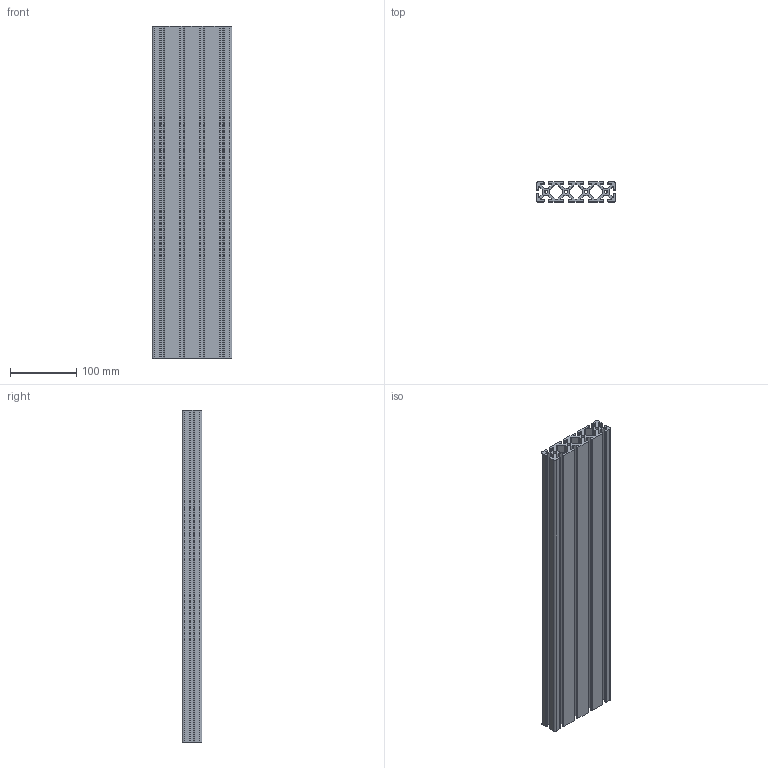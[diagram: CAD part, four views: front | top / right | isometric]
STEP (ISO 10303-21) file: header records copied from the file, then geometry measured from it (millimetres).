
FILE_DESCRIPTION (( 'STEP AP203' ), '1' );
FILE_NAME ('PP3030-500-Rollco.step', '2026-05-04T07:37:51', ( '' ), ( '' ), 'SwSTEP 2.0', 'SolidWorks 2014', '' );
FILE_SCHEMA (( 'CONFIG_CONTROL_DESIGN' ));
Length unit declared in the file: millimetre
Products named in the file (1): PP3030-500-Rollco
Bounding box: 120 x 30 x 500 mm (x, y, z)
Volume: 807365.8 mm3; surface area: 432111.4 mm2
Topology: 1 solids, 1 shells, 222 faces, 660 edges, 440 vertices
Faces by surface type: cylinder 118, plane 104
Entity records: 7625 total; most frequent: DIRECTION 1342, CARTESIAN_POINT 1323, ORIENTED_EDGE 1320, EDGE_CURVE 660, AXIS2_PLACEMENT_3D 459, VERTEX_POINT 440, VECTOR 424, LINE 424
